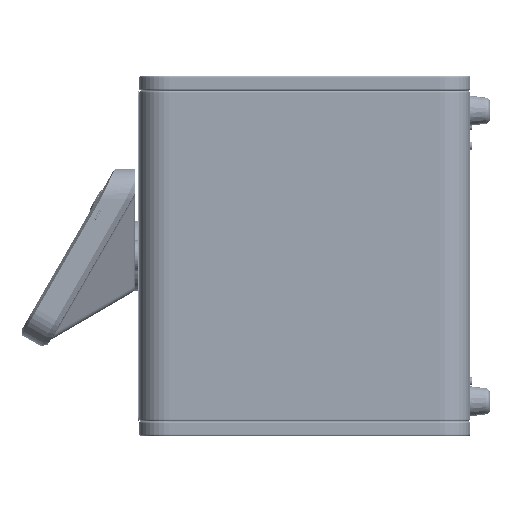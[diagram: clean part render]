
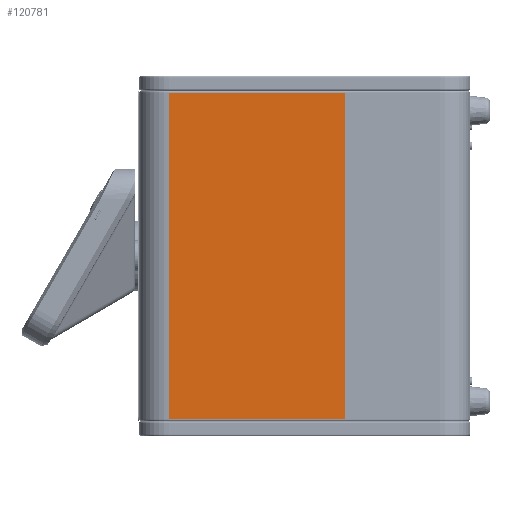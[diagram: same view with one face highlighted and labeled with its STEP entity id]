
A CAD part, left-side view. The second image highlights one B-rep face of the part: STEP entity #120781.
In plain terms, the highlighted planar face has unit normal (-1, 0, 0).
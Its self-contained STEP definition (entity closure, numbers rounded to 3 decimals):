
#11700 = LINE ( 'NONE', #30491, #12638 ) ;
#12638 = VECTOR ( 'NONE', #151297, 1000. ) ;
#24370 = CARTESIAN_POINT ( 'NONE',  ( -309.7, 125., 165. ) ) ;
#26888 = DIRECTION ( 'NONE',  ( 1., 0., 0. ) ) ;
#30491 = CARTESIAN_POINT ( 'NONE',  ( -309.7, 300., 165. ) ) ;
#30761 = DIRECTION ( 'NONE',  ( 0., -1., 0. ) ) ;
#32868 = EDGE_CURVE ( 'NONE', #119937, #137636, #214595, .T. ) ;
#36665 = CARTESIAN_POINT ( 'NONE',  ( -309.7, 125., 163.063 ) ) ;
#38310 = ORIENTED_EDGE ( 'NONE', *, *, #108305, .F. ) ;
#40995 = CARTESIAN_POINT ( 'NONE',  ( -309.7, 300., 163.063 ) ) ;
#67169 = FACE_OUTER_BOUND ( 'NONE', #72488, .T. ) ;
#72488 = EDGE_LOOP ( 'NONE', ( #101101, #241798, #38310, #218648 ) ) ;
#74095 = LINE ( 'NONE', #257946, #189335 ) ;
#88586 = PLANE ( 'NONE',  #246112 ) ;
#93443 = EDGE_CURVE ( 'NONE', #139970, #187473, #74095, .T. ) ;
#101101 = ORIENTED_EDGE ( 'NONE', *, *, #196159, .T. ) ;
#104902 = LINE ( 'NONE', #24370, #127680 ) ;
#108305 = EDGE_CURVE ( 'NONE', #187473, #137636, #104902, .T. ) ;
#109954 = CARTESIAN_POINT ( 'NONE',  ( -309.7, 300., -163.063 ) ) ;
#119937 = VERTEX_POINT ( 'NONE', #125623 ) ;
#120781 = ADVANCED_FACE ( 'NONE', ( #67169 ), #88586, .F. ) ;
#125623 = CARTESIAN_POINT ( 'NONE',  ( -309.7, 300., -163.063 ) ) ;
#127680 = VECTOR ( 'NONE', #186752, 1000. ) ;
#133120 = DIRECTION ( 'NONE',  ( 0., -1., 0. ) ) ;
#137636 = VERTEX_POINT ( 'NONE', #193652 ) ;
#139970 = VERTEX_POINT ( 'NONE', #40995 ) ;
#142374 = VECTOR ( 'NONE', #30761, 1000. ) ;
#151297 = DIRECTION ( 'NONE',  ( 0., 0., -1. ) ) ;
#186752 = DIRECTION ( 'NONE',  ( 0., 0., -1. ) ) ;
#187473 = VERTEX_POINT ( 'NONE', #36665 ) ;
#189335 = VECTOR ( 'NONE', #133120, 1000. ) ;
#190606 = CARTESIAN_POINT ( 'NONE',  ( -309.7, 300., 165. ) ) ;
#193261 = DIRECTION ( 'NONE',  ( 0., -1., 0. ) ) ;
#193652 = CARTESIAN_POINT ( 'NONE',  ( -309.7, 125., -163.063 ) ) ;
#196159 = EDGE_CURVE ( 'NONE', #139970, #119937, #11700, .T. ) ;
#214595 = LINE ( 'NONE', #109954, #142374 ) ;
#218648 = ORIENTED_EDGE ( 'NONE', *, *, #93443, .F. ) ;
#241798 = ORIENTED_EDGE ( 'NONE', *, *, #32868, .T. ) ;
#246112 = AXIS2_PLACEMENT_3D ( 'NONE', #190606, #26888, #193261 ) ;
#257946 = CARTESIAN_POINT ( 'NONE',  ( -309.7, 300., 163.063 ) ) ;
